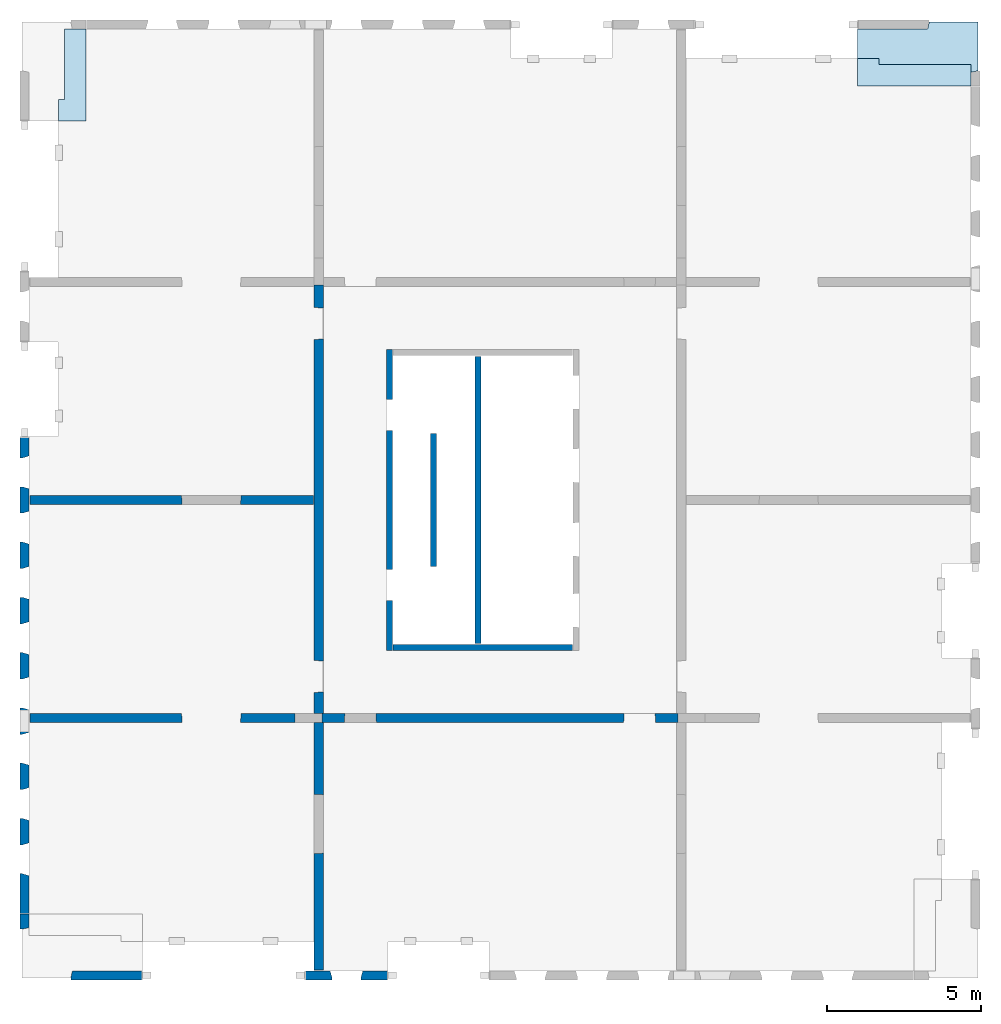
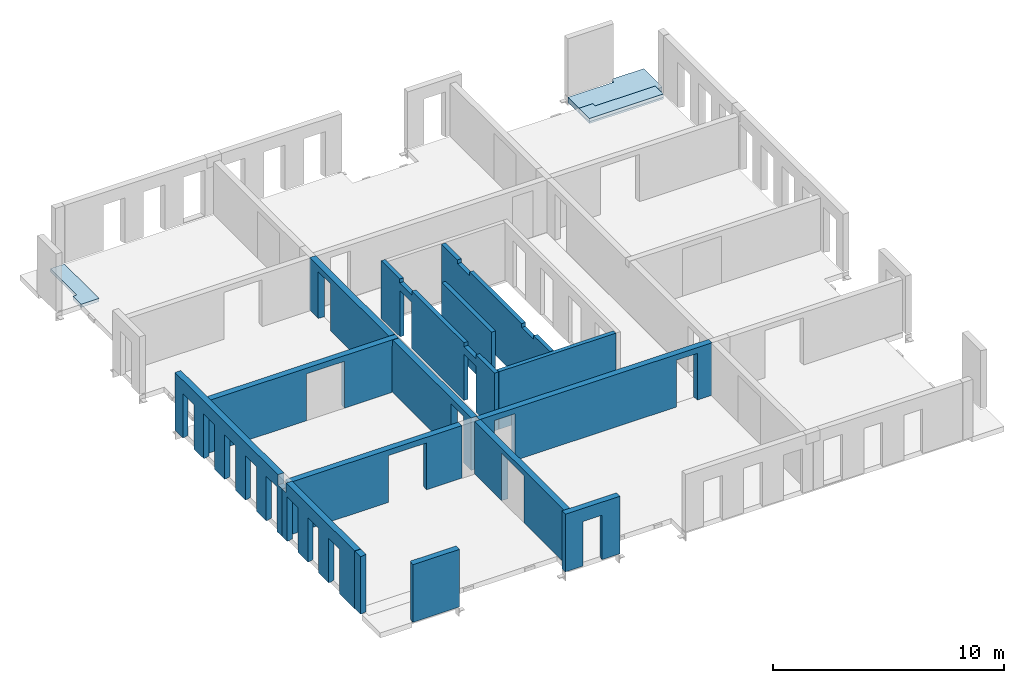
# One storey, part 2 of 5: 14 walls, 3 slabs, 34 openings.
"""IFC2X3 building model written with IfcOpenShell, lengths in millimetres."""

import ifcopenshell
import ifcopenshell.guid

model = None  # the IFC model being written
_history = None  # IfcOwnerHistory: only IFC2X3 demands one
_inside = {}  # id of a spatial element -> (the spatial element, [elements in it])
_under = {}  # id of a project, library or spatial element -> (it, [spatial elements below it])
_declared = {}  # id of a project -> (the project, [libraries it declares])
_typed = {}  # id of a type object -> (the type object, [elements of that type])
_made_of = {}  # id of a material, layer set ... -> (it, [elements and type objects made of it])


def new_model(schema):
    """Start an empty IFC model of exactly this schema.

    Asked for "IFC4X3", IfcOpenShell would pick the latest addendum, in which some entities
    have other attributes; the version numbers below select the first issue.
    IFC2X3 requires an IfcOwnerHistory on every rooted entity: one is made here for all.
    """
    global model, _history
    if schema == "IFC4X3":
        model = ifcopenshell.file(schema_version=(4, 3, 0, 0))
    else:
        model = ifcopenshell.file(schema=schema)
    _inside.clear()
    _under.clear()
    _declared.clear()
    _typed.clear()
    _made_of.clear()
    _history = None
    if model.schema == "IFC2X3":
        org = make("IfcOrganization", Name="unknown")
        user = make(
            "IfcPersonAndOrganization",
            ThePerson=make("IfcPerson", FamilyName="unknown"),
            TheOrganization=org,
        )
        app = make(
            "IfcApplication",
            ApplicationDeveloper=org,
            Version="unknown",
            ApplicationFullName="unknown",
            ApplicationIdentifier="unknown",
        )
        _history = make(
            "IfcOwnerHistory",
            OwningUser=user,
            OwningApplication=app,
            ChangeAction="ADDED",
            CreationDate=0,
        )
    return model


def make(cls, **values):
    """One entity of the class cls with the attributes given. An attribute that is None is left unset."""
    return model.create_entity(
        cls, **{name: value for name, value in values.items() if value is not None}
    )


def entity(cls, *values):
    """Any entity or typed value of the class cls, its attributes in the order of the schema. None: left unset."""
    e = model.create_entity(cls)
    for i, value in enumerate(values):
        if value is not None:
            e[i] = value
    return e


def rooted(cls, **values):
    """An entity with a GlobalId (a new one), such as an element, a storey or a relation."""
    return make(cls, GlobalId=ifcopenshell.guid.new(), OwnerHistory=_history, **values)


def si_unit(unit_type, name, prefix=None):
    """IfcSIUnit, for example si_unit("LENGTHUNIT", "METRE", prefix="MILLI")."""
    return make("IfcSIUnit", UnitType=unit_type, Prefix=prefix, Name=name)


def converted_unit(unit_type, name, factor, base, dimensions=None, offset=None):
    """IfcConversionBasedUnit, such as the inch: factor (a typed value) times the base unit."""
    return make(
        "IfcConversionBasedUnit"
        if offset is None
        else "IfcConversionBasedUnitWithOffset",
        ConversionOffset=offset,
        Dimensions=None
        if dimensions is None
        else entity("IfcDimensionalExponents", *dimensions),
        UnitType=unit_type,
        Name=name,
        ConversionFactor=make(
            "IfcMeasureWithUnit", ValueComponent=factor, UnitComponent=base
        ),
    )


def derived_unit(unit_type, elements):
    """IfcDerivedUnit: a product of units, each with its exponent."""
    return make(
        "IfcDerivedUnit",
        Elements=[
            make("IfcDerivedUnitElement", Unit=unit, Exponent=power)
            for unit, power in elements
        ],
        UnitType=unit_type,
    )


def assignment(units):
    """IfcUnitAssignment: the units of a project."""
    return None if units is None else make("IfcUnitAssignment", Units=units)


def point(xyz):
    """IfcCartesianPoint."""
    return None if xyz is None else make("IfcCartesianPoint", Coordinates=xyz)


def direction(xyz):
    """IfcDirection."""
    return None if xyz is None else make("IfcDirection", DirectionRatios=xyz)


def frame(location, z_axis=None, x_axis=None):
    """IfcAxis2Placement3D, a coordinate frame: its origin and axes. An axis left out is left unset."""
    return make(
        "IfcAxis2Placement3D",
        Location=point(location),
        Axis=direction(z_axis),
        RefDirection=direction(x_axis),
    )


def frame_2d(location, x_axis=None):
    """IfcAxis2Placement2D, a coordinate frame in the plane: its origin and x axis."""
    return make(
        "IfcAxis2Placement2D", Location=point(location), RefDirection=direction(x_axis)
    )


def origin():
    """The frame at (0, 0, 0) with its axes left unset."""
    return frame((0.0, 0.0, 0.0))


def place(relative_to, where):
    """IfcLocalPlacement: puts the frame where relative to a parent placement (None: the world)."""
    return make(
        "IfcLocalPlacement", PlacementRelTo=relative_to, RelativePlacement=where
    )


def context(
    kind, dimensions, precision=None, world=None, true_north=None, identifier=None
):
    """IfcGeometricRepresentationContext, for example the 3D "Model" context."""
    return make(
        "IfcGeometricRepresentationContext",
        ContextIdentifier=identifier,
        ContextType=kind,
        CoordinateSpaceDimension=dimensions,
        Precision=precision,
        WorldCoordinateSystem=world,
        TrueNorth=true_north,
    )


def subcontext(parent, identifier, kind, view, scale=None):
    """IfcGeometricRepresentationSubContext, for example "Body" below "Model"."""
    return make(
        "IfcGeometricRepresentationSubContext",
        ContextIdentifier=identifier,
        ContextType=kind,
        ParentContext=parent,
        TargetScale=scale,
        TargetView=view,
    )


def project(units=None, contexts=None):
    """IfcProject with its units and contexts."""
    return rooted(
        "IfcProject",
        Name="project",
        RepresentationContexts=contexts,
        UnitsInContext=assignment(units),
    )


def spatial(cls, under=None, at=None, **own):
    """A site, building, storey or space (cls), placed at a placement, below another one or the project."""
    s = rooted(cls, ObjectPlacement=at, **own)
    if under is not None:
        _under.setdefault(under.id(), (under, []))[1].append(s)
    return s


def polyline(points):
    """IfcPolyline through the points."""
    return make("IfcPolyline", Points=[point(p) for p in points])


def profile(cls, at=None, kind="AREA", **sizes):
    """A parametric profile (cls). Its sizes go by their IFC names, for example OverallWidth=200.0."""
    return make(cls, ProfileType=kind, Position=at, **sizes)


def rectangle(**sizes):
    """IfcRectangleProfileDef."""
    return profile("IfcRectangleProfileDef", **sizes)


def outline(outer, holes=None, kind="AREA"):
    """IfcArbitraryClosedProfileDef: a profile drawn as a closed curve; with holes, ...WithVoids."""
    if holes is None:
        return make("IfcArbitraryClosedProfileDef", ProfileType=kind, OuterCurve=outer)
    return make(
        "IfcArbitraryProfileDefWithVoids",
        ProfileType=kind,
        OuterCurve=outer,
        InnerCurves=holes,
    )


def extrude(swept, where, along, depth):
    """IfcExtrudedAreaSolid: the profile swept, set in the frame where, extruded along a direction by depth."""
    return make(
        "IfcExtrudedAreaSolid",
        SweptArea=swept,
        Position=where,
        ExtrudedDirection=direction(along),
        Depth=depth,
    )


def faces_of(points, faces, orient=None, outer=None):
    """IfcFace entities. A face is a list of loops; a loop is a list of indices into points, from 0.

    orient and outer hold one flag for each loop. By default every Orientation is true, the
    first loop of a face is its IfcFaceOuterBound and the others are IfcFaceBound.
    """
    made = []
    for i, loops in enumerate(faces):
        bounds = []
        for j, loop in enumerate(loops):
            is_outer = j == 0 if outer is None else outer[i][j]
            bounds.append(
                make(
                    "IfcFaceOuterBound" if is_outer else "IfcFaceBound",
                    Bound=make("IfcPolyLoop", Polygon=[points[k] for k in loop]),
                    Orientation=True if orient is None else orient[i][j],
                )
            )
        made.append(make("IfcFace", Bounds=bounds))
    return made


def faceted_brep(points, faces, orient=None, outer=None, voids=None):
    """IfcFacetedBrep: a solid bounded by flat faces; with voids (closed shells), ...WithVoids."""
    shared = [point(p) for p in points]
    hull = make("IfcClosedShell", CfsFaces=faces_of(shared, faces, orient, outer))
    if voids is None:
        return make("IfcFacetedBrep", Outer=hull)
    return make(
        "IfcFacetedBrepWithVoids",
        Outer=hull,
        Voids=[
            make(cls, CfsFaces=faces_of(shared, fs, o, b)) for cls, fs, o, b in voids
        ],
    )


def shape(context_of_items, identifier, shape_type, items):
    """IfcShapeRepresentation: the items that make up one representation, for example the "Body"."""
    return make(
        "IfcShapeRepresentation",
        ContextOfItems=context_of_items,
        RepresentationIdentifier=identifier,
        RepresentationType=shape_type,
        Items=items,
    )


def material(Name=None, Category=None):
    """IfcMaterial."""
    return make("IfcMaterial", Name=Name, Category=Category)


def layer(
    of_material, thickness, ventilated=None, Name=None, Category=None, Priority=None
):
    """IfcMaterialLayer: one layer of a wall or slab, of a material (None: an air gap)."""
    return make(
        "IfcMaterialLayer",
        Material=of_material,
        LayerThickness=thickness,
        IsVentilated=ventilated,
        Name=Name,
        Category=Category,
        Priority=Priority,
    )


def layer_set(layers, Name=None):
    """IfcMaterialLayerSet."""
    return make("IfcMaterialLayerSet", MaterialLayers=layers, LayerSetName=Name)


def layer_usage(for_layer_set, set_direction, sense, offset, extent=None):
    """IfcMaterialLayerSetUsage: how a layer set lies in its element."""
    return make(
        "IfcMaterialLayerSetUsage",
        ForLayerSet=for_layer_set,
        LayerSetDirection=set_direction,
        DirectionSense=sense,
        OffsetFromReferenceLine=offset,
        ReferenceExtent=extent,
    )


def made_of(thing, what):
    """Note that an element or type object is made of a material, layer set ...; save() writes the relation."""
    if what is not None:
        _made_of.setdefault(what.id(), (what, []))[1].append(thing)
    return thing


def type_object(cls, material=None, **own):
    """A type object (cls), such as IfcWallType, which elements share."""
    return made_of(rooted(cls, **own), material)


def element(
    cls,
    number,
    at=None,
    inside=None,
    cuts=None,
    type_object=None,
    material=None,
    context=None,
    identifier="Body",
    shape_type=None,
    held_by="IfcProductDefinitionShape",
    body=None,
    shapes=None,
    **own,
):
    """One element of the class cls, such as IfcWall. Its Tag is "e" and its number.

    at: its placement. inside: the storey or other place that contains it. cuts: it is an
    opening in that element (IfcRelVoidsElement). A single representation is given by context,
    identifier, shape_type and body (its items); several are given by shapes. held_by: the class
    of the entity that holds the representations. save() writes the other relations.
    """
    e = rooted(cls, Tag="e%d" % number, ObjectPlacement=at, **own)
    if body is not None:
        shapes = [shape(context, identifier, shape_type, body)]
    if shapes is not None:
        e.Representation = make(held_by, Representations=shapes)
    if inside is not None:
        _inside.setdefault(inside.id(), (inside, []))[1].append(e)
    if cuts is not None:
        rooted(
            "IfcRelVoidsElement", RelatingBuildingElement=cuts, RelatedOpeningElement=e
        )
    if type_object is not None:
        _typed.setdefault(type_object.id(), (type_object, []))[1].append(e)
    return made_of(e, material)


def aggregate(whole, parts):
    """IfcRelAggregates: a whole, such as a stair, and the parts it consists of."""
    return rooted("IfcRelAggregates", RelatingObject=whole, RelatedObjects=parts)


def save(model, path):
    """Write the relations noted so far, then the file.

    IfcRelAggregates (storeys below a building ...), IfcRelContainedInSpatialStructure (elements
    in a storey), IfcRelDefinesByType, IfcRelAssociatesMaterial and IfcRelDeclares: one each for
    every whole, place, type object, material and project.
    """
    for whole, parts in _under.values():
        aggregate(whole, parts)
    for where, things in _inside.values():
        rooted(
            "IfcRelContainedInSpatialStructure",
            RelatedElements=things,
            RelatingStructure=where,
        )
    for kind, things in _typed.values():
        rooted("IfcRelDefinesByType", RelatedObjects=things, RelatingType=kind)
    for what, things in _made_of.values():
        rooted("IfcRelAssociatesMaterial", RelatedObjects=things, RelatingMaterial=what)
    for by, libraries in _declared.values():
        rooted("IfcRelDeclares", RelatingContext=by, RelatedDefinitions=libraries)
    model.write(path)


model = new_model("IFC2X3")

# Units and contexts
model_context = context("Model", 3, precision=0.01, world=origin(), true_north=direction((6.12303176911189e-17, 1.0)))
body_context = subcontext(model_context, "Body", "Model", "MODEL_VIEW")
ifc_project = project(units=[si_unit("LENGTHUNIT", "METRE", prefix="MILLI"), si_unit("AREAUNIT", "SQUARE_METRE"), si_unit("VOLUMEUNIT", "CUBIC_METRE"), converted_unit("PLANEANGLEUNIT", "DEGREE", entity("IfcRatioMeasure", 0.0174532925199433), si_unit("PLANEANGLEUNIT", "RADIAN"), dimensions=[0, 0, 0, 0, 0, 0, 0]), si_unit("MASSUNIT", "GRAM", prefix="KILO"), derived_unit("MASSDENSITYUNIT", [(si_unit("MASSUNIT", "GRAM", prefix="KILO"), 1), (si_unit("LENGTHUNIT", "METRE"), -3)]), si_unit("TIMEUNIT", "SECOND"), si_unit("FREQUENCYUNIT", "HERTZ"), si_unit("THERMODYNAMICTEMPERATUREUNIT", "DEGREE_CELSIUS"), derived_unit("THERMALTRANSMITTANCEUNIT", [(si_unit("MASSUNIT", "GRAM", prefix="KILO"), 1), (si_unit("THERMODYNAMICTEMPERATUREUNIT", "KELVIN"), -1), (si_unit("TIMEUNIT", "SECOND"), -3)]), derived_unit("VOLUMETRICFLOWRATEUNIT", [(si_unit("LENGTHUNIT", "METRE"), 3), (si_unit("TIMEUNIT", "SECOND"), -1)]), si_unit("ELECTRICCURRENTUNIT", "AMPERE"), si_unit("ELECTRICVOLTAGEUNIT", "VOLT"), si_unit("POWERUNIT", "WATT"), si_unit("FORCEUNIT", "NEWTON", prefix="KILO"), si_unit("ILLUMINANCEUNIT", "LUX"), si_unit("LUMINOUSFLUXUNIT", "LUMEN"), si_unit("LUMINOUSINTENSITYUNIT", "CANDELA"), derived_unit("USERDEFINED", [(si_unit("MASSUNIT", "GRAM", prefix="KILO"), -1), (si_unit("LENGTHUNIT", "METRE"), -2), (si_unit("TIMEUNIT", "SECOND"), 3), (si_unit("LUMINOUSFLUXUNIT", "LUMEN"), 1)]), derived_unit("LINEARVELOCITYUNIT", [(si_unit("LENGTHUNIT", "METRE"), 1), (si_unit("TIMEUNIT", "SECOND"), -1)]), si_unit("PRESSUREUNIT", "PASCAL"), derived_unit("USERDEFINED", [(si_unit("LENGTHUNIT", "METRE"), -2), (si_unit("MASSUNIT", "GRAM", prefix="KILO"), 1), (si_unit("TIMEUNIT", "SECOND"), -2)])], contexts=[model_context])

# Site, building, storey
site_placement = place(None, origin())
site = spatial("IfcSite", under=ifc_project, at=site_placement, Name="Default", CompositionType="ELEMENT")
building_placement = place(site_placement, origin())
building = spatial("IfcBuilding", under=site, at=building_placement, Name="niet gebruiken", CompositionType="ELEMENT")
storey_placement = place(building_placement, frame((0.0, 0.0, 143460.0)))
storey = spatial("IfcBuildingStorey", under=building, at=storey_placement, Name="46 zesenveertigste verdieping", CompositionType="ELEMENT", Elevation=143460.0)

# Slabs
ifc_material_1 = material(Name="NLRS_f2_beton ihwg")
ifc_layer_1 = layer(ifc_material_1, 170.0)
ifc_layer_set_1 = layer_set([ifc_layer_1], Name="Floor:NLRS_23.21_FL_beton ihwg d=170_gen")
ifc_layer_usage_1 = layer_usage(ifc_layer_set_1, "AXIS3", "POSITIVE", 0.0)
slab_1_placement = place(storey_placement, origin())
element("IfcSlab", 1, at=slab_1_placement, inside=storey, material=ifc_layer_usage_1, Name="Floor:NLRS_23.21_FL_beton ihwg d=170_gen", ObjectType="Floor:NLRS_23.21_FL_beton ihwg d=170_gen", PredefinedType="FLOOR", context=body_context, shape_type="SweptSolid", body=[
    extrude(outline(polyline([(-1230.0, -366.666666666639), (-530.0, -366.666666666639), (-530.0, -166.66666666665), (1760.0, -166.666666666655), (1760.0, 533.333333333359), (-1230.0, 533.333333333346), (-1230.0, -366.666666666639)])), frame((127736.666666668, 31070.0, -90.0), z_axis=(0.0, 0.0, -1.0), x_axis=(0.0, 1.0, 0.0)), (0.0, 0.0, 1.0), 169.999999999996),
])
ifc_material_2 = material(Name="NLRS_f2_beton prefab")
ifc_layer_2 = layer(ifc_material_2, 270.0)
ifc_layer_set_2 = layer_set([ifc_layer_2], Name="Floor:NLRS_23.22_FL_beton prefab d=270 3D element_gen")
ifc_layer_usage_2 = layer_usage(ifc_layer_set_2, "AXIS3", "POSITIVE", 0.0)
slab_2_placement = place(storey_placement, origin())
element("IfcSlab", 2, at=slab_2_placement, inside=storey, material=ifc_layer_usage_2, Name="Floor:NLRS_23.22_FL_beton prefab d=270 3D element_gen", ObjectType="Floor:NLRS_23.22_FL_beton prefab d=270 3D element_gen", PredefinedType="LANDING", context=body_context, shape_type="SweptSolid", body=[
    extrude(outline(polyline([(-1100.52860501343, -2480.52860501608), (749.471394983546, -2480.52860501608), (749.471394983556, -195.152429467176), (982.471394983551, -147.675940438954), (982.471394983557, 1442.47139498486), (-607.675940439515, 1442.47139498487), (-655.152429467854, 1209.47139498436), (-1100.52860501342, 1209.47139498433), (-1100.52860501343, -2480.52860501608)])), frame((155870.528605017, 32080.5286050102, -90.0), z_axis=(0.0, 0.0, -1.0), x_axis=(0.0, 1.0, 0.0)), (0.0, 0.0, 1.0), 270.000000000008),
])
ifc_layer_usage_3 = layer_usage(ifc_layer_set_1, "AXIS3", "POSITIVE", 0.0)
slab_3_placement = place(storey_placement, origin())
element("IfcSlab", 3, at=slab_3_placement, inside=storey, material=ifc_layer_usage_3, Name="Floor:NLRS_23.21_FL_beton ihwg d=170_gen", ObjectType="Floor:NLRS_23.21_FL_beton ihwg d=170_gen", PredefinedType="FLOOR", context=body_context, shape_type="SweptSolid", body=[
    extrude(outline(polyline([(-533.333333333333, -1463.33333333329), (366.666666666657, -1463.33333333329), (366.666666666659, -763.333333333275), (166.66666666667, -763.333333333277), (166.666666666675, 2226.66666666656), (-533.333333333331, 2226.66666666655), (-533.333333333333, -1463.33333333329)])), frame((154853.333333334, 31513.3333333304, -90.0), z_axis=(0.0, 0.0, -1.0), x_axis=(0.0, 1.0, 0.0)), (0.0, 0.0, 1.0), 169.999999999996),
])

# Wall, openings
ifc_layer_3 = layer(ifc_material_2, 200.0)
ifc_layer_set_3 = layer_set([ifc_layer_3], Name="Basic Wall:NLRS_22.21_WA_beton prefab d=200_gen")
ifc_layer_usage_4 = layer_usage(ifc_layer_set_3, "AXIS2", "NEGATIVE", 100.0)
wall_type_1 = type_object("IfcWallType", Name="Basic Wall:NLRS_22.21_WA_beton prefab d=200_gen", PredefinedType="STANDARD", material=ifc_layer_set_3)
wall_1_placement = place(storey_placement, frame((138150.0, 22400.0, -50.0), z_axis=(0.0, 0.0, 1.0), x_axis=(0.0, -1.0, 0.0)))
wall_1 = element("IfcWallStandardCase", 4, at=wall_1_placement, inside=storey, type_object=wall_type_1, material=ifc_layer_usage_4, Name="Basic Wall:NLRS_22.21_WA_beton prefab d=200_gen", ObjectType="Basic Wall:NLRS_22.21_WA_beton prefab d=200_gen", context=body_context, shape_type="SweptSolid", body=[
    extrude(rectangle(XDim=9800.0, YDim=199.999999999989, at=frame_2d((4900.0, 3.76587649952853e-13), x_axis=(-1.0, 0.0))), origin(), (0.0, 0.0, 1.0), 3040.0),
])
opening_1_placement = place(wall_1_placement, origin())
element("IfcOpeningElement", 5, at=opening_1_placement, cuts=wall_1, Name="Basic Wall:NLRS_22.21_WA_beton prefab d=200_gen", ObjectType="Opening", context=body_context, shape_type="SweptSolid", body=[
    extrude(rectangle(XDim=200.000000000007, YDim=1044.0, at=frame_2d((8.66862137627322e-12, 0.0), x_axis=(1.0, 0.0))), frame((7672.0, -100.0, 2940.0), z_axis=(0.0, 1.0, 0.0), x_axis=(0.0, 0.0, -1.0)), (0.0, 0.0, 1.0), 199.999999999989),
])
opening_2_placement = place(wall_1_placement, origin())
element("IfcOpeningElement", 6, at=opening_2_placement, cuts=wall_1, Name="Basic Wall:NLRS_22.21_WA_beton prefab d=200_gen", ObjectType="Opening", context=body_context, shape_type="SweptSolid", body=[
    extrude(rectangle(XDim=200.000000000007, YDim=1044.0, at=frame_2d((8.66862137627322e-12, 2.1600499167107e-12), x_axis=(1.0, 0.0))), frame((2128.0, -100.0, 2940.0), z_axis=(0.0, 1.0, 0.0), x_axis=(0.0, 0.0, -1.0)), (0.0, 0.0, 1.0), 199.999999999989),
])
opening_3_placement = place(wall_1_placement, origin())
element("IfcOpeningElement", 7, at=opening_3_placement, cuts=wall_1, Name="Basic Wall:NLRS_22.21_WA_beton prefab d=200_gen", ObjectType="Opening", context=body_context, shape_type="SweptSolid", body=[
    extrude(rectangle(XDim=2435.0, YDim=1015.99999999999, at=frame_2d((0.0, 1.10844666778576e-12), x_axis=(1.0, 0.0))), frame((7672.0, -100.0, 1217.50000000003), z_axis=(0.0, 1.0, 0.0), x_axis=(0.0, 0.0, -1.0)), (0.0, 0.0, 1.0), 199.999999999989),
])
opening_4_placement = place(wall_1_placement, origin())
element("IfcOpeningElement", 8, at=opening_4_placement, cuts=wall_1, Name="Basic Wall:NLRS_22.21_WA_beton prefab d=200_gen", ObjectType="Opening", context=body_context, shape_type="SweptSolid", body=[
    extrude(rectangle(XDim=2435.0, YDim=1015.99999999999, at=frame_2d((0.0, -2.18847162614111e-12), x_axis=(1.0, 0.0))), frame((2128.0, -100.0, 1217.50000000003), z_axis=(0.0, 1.0, 0.0), x_axis=(0.0, 0.0, -1.0)), (0.0, 0.0, 1.0), 199.999999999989),
])

ifc_layer_usage_5 = layer_usage(ifc_layer_set_3, "AXIS2", "NEGATIVE", 100.0)
wall_2_placement = place(storey_placement, frame((141030.0, 22180.0, -50.0), z_axis=(0.0, 0.0, 1.0), x_axis=(0.0, -1.0, 0.0)))
wall_2 = element("IfcWallStandardCase", 9, at=wall_2_placement, inside=storey, type_object=wall_type_1, material=ifc_layer_usage_5, Name="Basic Wall:NLRS_22.21_WA_beton prefab d=200_gen", ObjectType="Basic Wall:NLRS_22.21_WA_beton prefab d=200_gen", context=body_context, shape_type="SweptSolid", body=[
    extrude(rectangle(XDim=9360.0, YDim=199.999999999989, at=frame_2d((4680.0, -2.8421709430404e-14), x_axis=(-1.0, 0.0))), origin(), (0.0, 0.0, 1.0), 3040.0),
])
opening_5_placement = place(wall_2_placement, origin())
element("IfcOpeningElement", 10, at=opening_5_placement, cuts=wall_2, Name="Basic Wall:NLRS_22.21_WA_beton prefab d=200_gen", ObjectType="Opening", context=body_context, shape_type="SweptSolid", body=[
    extrude(rectangle(XDim=70.0000000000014, YDim=1044.00000000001, at=frame_2d((-8.66506866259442e-12, 0.0), x_axis=(1.0, 0.0))), frame((7452.0, -100.0, 35.0), z_axis=(0.0, 1.0, 0.0), x_axis=(0.0, 0.0, -1.0)), (0.0, 0.0, 1.0), 199.999999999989),
])
opening_6_placement = place(wall_2_placement, origin())
element("IfcOpeningElement", 11, at=opening_6_placement, cuts=wall_2, Name="Basic Wall:NLRS_22.21_WA_beton prefab d=200_gen", ObjectType="Opening", context=body_context, shape_type="SweptSolid", body=[
    extrude(rectangle(XDim=70.0000000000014, YDim=1044.00000000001, at=frame_2d((-8.66506866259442e-12, 0.0), x_axis=(1.0, 0.0))), frame((1908.0, -100.0, 35.0), z_axis=(0.0, 1.0, 0.0), x_axis=(0.0, 0.0, -1.0)), (0.0, 0.0, 1.0), 199.999999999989),
])
opening_7_placement = place(wall_2_placement, origin())
element("IfcOpeningElement", 12, at=opening_7_placement, cuts=wall_2, Name="Basic Wall:NLRS_22.21_WA_beton prefab d=200_gen", ObjectType="Opening", context=body_context, shape_type="SweptSolid", body=[
    extrude(rectangle(XDim=200.000000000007, YDim=1044.00000000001, at=frame_2d((8.66862137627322e-12, 0.0), x_axis=(1.0, 0.0))), frame((1908.0, -100.0, 2940.0), z_axis=(0.0, 1.0, 0.0), x_axis=(0.0, 0.0, -1.0)), (0.0, 0.0, 1.0), 199.999999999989),
])
opening_8_placement = place(wall_2_placement, origin())
element("IfcOpeningElement", 13, at=opening_8_placement, cuts=wall_2, Name="Basic Wall:NLRS_22.21_WA_beton prefab d=200_gen", ObjectType="Opening", context=body_context, shape_type="SweptSolid", body=[
    extrude(rectangle(XDim=200.000000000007, YDim=1044.00000000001, at=frame_2d((8.66862137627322e-12, 0.0), x_axis=(1.0, 0.0))), frame((7452.0, -100.0, 2940.0), z_axis=(0.0, 1.0, 0.0), x_axis=(0.0, 0.0, -1.0)), (0.0, 0.0, 1.0), 199.999999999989),
])
opening_9_placement = place(wall_2_placement, origin())
element("IfcOpeningElement", 14, at=opening_9_placement, cuts=wall_2, Name="Basic Wall:NLRS_22.21_WA_beton prefab d=200_gen", ObjectType="Recess", context=body_context, shape_type="SweptSolid", body=[
    extrude(rectangle(XDim=399.999999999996, YDim=280.000000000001, at=frame_2d((-2.1600499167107e-12, -8.66862137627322e-12), x_axis=(0.0, 1.0))), frame((770.0, -60.0, 438.0), z_axis=(0.0, 1.0, 0.0), x_axis=(1.0, 0.0, 0.0)), (0.0, 0.0, 1.0), 159.999999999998),
])
opening_10_placement = place(wall_2_placement, origin())
element("IfcOpeningElement", 15, at=opening_10_placement, cuts=wall_2, Name="Basic Wall:NLRS_22.21_WA_beton prefab d=200_gen", ObjectType="Recess", context=body_context, shape_type="SweptSolid", body=[
    extrude(rectangle(XDim=399.999999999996, YDim=280.000000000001, at=frame_2d((-2.1600499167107e-12, -8.66862137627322e-12), x_axis=(0.0, 1.0))), frame((1570.0, -60.0, 438.0), z_axis=(0.0, 1.0, 0.0), x_axis=(1.0, 0.0, 0.0)), (0.0, 0.0, 1.0), 159.999999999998),
])
opening_11_placement = place(wall_2_placement, origin())
element("IfcOpeningElement", 16, at=opening_11_placement, cuts=wall_2, Name="Basic Wall:NLRS_22.21_WA_beton prefab d=200_gen", ObjectType="Recess", context=body_context, shape_type="SweptSolid", body=[
    extrude(rectangle(XDim=399.999999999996, YDim=279.999999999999, at=frame_2d((-1.08002495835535e-12, -8.66862137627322e-12), x_axis=(0.0, 1.0))), frame((3160.0, -60.0, 438.0), z_axis=(0.0, 1.0, 0.0), x_axis=(1.0, 0.0, 0.0)), (0.0, 0.0, 1.0), 159.999999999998),
])
opening_12_placement = place(wall_2_placement, origin())
element("IfcOpeningElement", 17, at=opening_12_placement, cuts=wall_2, Name="Basic Wall:NLRS_22.21_WA_beton prefab d=200_gen", ObjectType="Recess", context=body_context, shape_type="SweptSolid", body=[
    extrude(rectangle(XDim=399.999999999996, YDim=279.999999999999, at=frame_2d((1.08002495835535e-12, -8.66862137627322e-12), x_axis=(0.0, 1.0))), frame((3960.0, -60.0, 438.0), z_axis=(0.0, 1.0, 0.0), x_axis=(1.0, 0.0, 0.0)), (0.0, 0.0, 1.0), 159.999999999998),
])

# Walls
ifc_layer_usage_6 = layer_usage(ifc_layer_set_3, "AXIS2", "NEGATIVE", 100.0)
wall_3_placement = place(storey_placement, frame((139590.0, 19660.0, -50.0), z_axis=(0.0, 0.0, 1.0), x_axis=(0.0, -1.0, 0.0)))
element("IfcWallStandardCase", 18, at=wall_3_placement, inside=storey, type_object=wall_type_1, material=ifc_layer_usage_6, Name="Basic Wall:NLRS_22.21_WA_beton prefab d=200_gen", ObjectType="Basic Wall:NLRS_22.21_WA_beton prefab d=200_gen", context=body_context, shape_type="SweptSolid", body=[
    extrude(rectangle(XDim=4320.00000000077, YDim=199.999999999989, at=frame_2d((2160.00000000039, 0.0), x_axis=(-1.0, 0.0))), origin(), (0.0, 0.0, 1.0), 3040.0),
])
ifc_layer_usage_7 = layer_usage(ifc_layer_set_3, "AXIS2", "NEGATIVE", 100.0)
wall_4_placement = place(storey_placement, frame((138270.0, 12700.0, -50.0)))
element("IfcWallStandardCase", 19, at=wall_4_placement, inside=storey, type_object=wall_type_1, material=ifc_layer_usage_7, Name="Basic Wall:NLRS_22.21_WA_beton prefab d=200_gen", ObjectType="Basic Wall:NLRS_22.21_WA_beton prefab d=200_gen", context=body_context, shape_type="SweptSolid", body=[
    extrude(rectangle(XDim=5839.99999999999, YDim=199.999999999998, at=frame_2d((2919.99999999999, -6.82121026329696e-13), x_axis=(-1.0, 0.0))), origin(), (0.0, 0.0, 1.0), 3040.0),
])

# Wall, opening
ifc_layer_4 = layer(ifc_material_2, 300.0)
ifc_layer_set_4 = layer_set([ifc_layer_4], Name="Basic Wall:NLRS_22.21_WA_beton prefab d=300_gen")
ifc_layer_usage_8 = layer_usage(ifc_layer_set_4, "AXIS2", "NEGATIVE", 150.0)
wall_type_2 = type_object("IfcWallType", Name="Basic Wall:NLRS_22.21_WA_beton prefab d=300_gen", PredefinedType="STANDARD", material=ifc_layer_set_4)
wall_5_placement = place(storey_placement, frame((135850.0, 10250.0, -70.0), z_axis=(0.0, 0.0, 1.0), x_axis=(0.0, -1.0, 0.0)))
wall_5 = element("IfcWallStandardCase", 20, at=wall_5_placement, inside=storey, type_object=wall_type_2, material=ifc_layer_usage_8, Name="Basic Wall:NLRS_22.21_WA_beton prefab d=300_gen", ObjectType="Basic Wall:NLRS_22.21_WA_beton prefab d=300_gen", context=body_context, shape_type="SweptSolid", body=[
    extrude(rectangle(XDim=8059.99999999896, YDim=300.000000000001, at=frame_2d((4029.99999999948, 1.22213350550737e-12), x_axis=(-1.0, 0.0))), origin(), (0.0, 0.0, 1.0), 2769.99999999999),
])
opening_13_placement = place(wall_5_placement, frame((4268.0, -150.0, 0.0)))
element("IfcOpeningElement", 21, at=opening_13_placement, cuts=wall_5, Name="Basic Wall:NLRS_22.21_WA_beton prefab d=300_gen", ObjectType="Opening", context=body_context, shape_type="Brep", body=[
    faceted_brep([(-18.0, 300.0, 2470.0), (-18.0, 300.0, 0.0), (-1918.0, 300.0, 0.0), (-1918.0, 300.0, 2470.0), (0.0, 0.0, 2488.0), (-1936.0, 0.0, 2488.0), (-1936.0, 0.0, 0.0), (0.0, 0.0, 0.0)], [[[0, 1, 2, 3]], [[4, 5, 6, 7]], [[4, 0, 3, 5]], [[5, 3, 2, 6]], [[6, 2, 1, 7]], [[7, 1, 0, 4]]]),
])

# Wall, openings
ifc_layer_usage_9 = layer_usage(ifc_layer_set_4, "AXIS2", "NEGATIVE", 150.0)
wall_6_placement = place(storey_placement, frame((135950.003540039, 10400.0, -70.0)))
wall_6 = element("IfcWallStandardCase", 22, at=wall_6_placement, inside=storey, type_object=wall_type_2, material=ifc_layer_usage_9, Name="Basic Wall:NLRS_22.21_WA_beton prefab d=300_gen", ObjectType="Basic Wall:NLRS_22.21_WA_beton prefab d=300_gen", context=body_context, shape_type="SweptSolid", body=[
    extrude(rectangle(XDim=11599.9964599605, YDim=300.000000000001, at=frame_2d((5799.99822998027, 1.70530256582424e-13), x_axis=(-1.0, 0.0))), origin(), (0.0, 0.0, 1.0), 2769.99999999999),
])
opening_14_placement = place(wall_6_placement, frame((731.996459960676, -150.0, 0.0)))
element("IfcOpeningElement", 23, at=opening_14_placement, cuts=wall_6, Name="Basic Wall:NLRS_22.21_WA_beton prefab d=300_gen", ObjectType="Opening", context=body_context, shape_type="Brep", body=[
    faceted_brep([(0.0, 0.0, 2466.0), (18.0, 300.0, 2448.0), (18.0, 300.0, 0.0), (0.0, 0.0, 0.0), (1024.0, 300.0, 0.0), (1042.0, 0.0, 0.0), (1024.0, 300.0, 2448.0), (1042.0, 0.0, 2466.0)], [[[0, 1, 2, 3]], [[3, 2, 4, 5]], [[6, 4, 2, 1]], [[7, 0, 3, 5]], [[7, 6, 1, 0]], [[5, 4, 6, 7]]]),
])
opening_15_placement = place(wall_6_placement, frame((9825.99645996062, -150.0, 0.0)))
element("IfcOpeningElement", 24, at=opening_15_placement, cuts=wall_6, Name="Basic Wall:NLRS_22.21_WA_beton prefab d=300_gen", ObjectType="Opening", context=body_context, shape_type="Brep", body=[
    faceted_brep([(0.0, 0.0, 2466.0), (18.0, 300.0, 2448.0), (18.0, 300.0, 0.0), (0.0, 0.0, 0.0), (1024.0, 300.0, 0.0), (1042.0, 0.0, 0.0), (1024.0, 300.0, 2448.0), (1042.0, 0.0, 2466.0)], [[[0, 1, 2, 3]], [[3, 2, 4, 5]], [[6, 4, 2, 1]], [[7, 0, 3, 5]], [[7, 6, 1, 0]], [[5, 4, 6, 7]]]),
])

ifc_layer_usage_10 = layer_usage(ifc_layer_set_4, "AXIS2", "NEGATIVE", 150.0)
wall_7_placement = place(storey_placement, frame((126440.0, 17500.0, -70.0)))
wall_7 = element("IfcWallStandardCase", 25, at=wall_7_placement, inside=storey, type_object=wall_type_2, material=ifc_layer_usage_10, Name="Basic Wall:NLRS_22.21_WA_beton prefab d=300_gen", ObjectType="Basic Wall:NLRS_22.21_WA_beton prefab d=300_gen", context=body_context, shape_type="SweptSolid", body=[
    extrude(rectangle(XDim=9559.9999999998, YDim=300.000000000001, at=frame_2d((4779.9999999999, -5.54223333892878e-13), x_axis=(-1.0, 0.0))), origin(), (0.0, 0.0, 1.0), 2769.99999999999),
])
opening_16_placement = place(wall_7_placement, frame((4942.0, -150.0, 0.0)))
element("IfcOpeningElement", 26, at=opening_16_placement, cuts=wall_7, Name="Basic Wall:NLRS_22.21_WA_beton prefab d=300_gen", ObjectType="Opening", context=body_context, shape_type="Brep", body=[
    faceted_brep([(1918.0, 0.0, 2470.0), (18.0, 0.0, 2470.0), (18.0, 0.0, 0.0), (1918.0, 0.0, 0.0), (1936.0, 300.0, 2488.0), (1936.0, 300.0, 0.0), (0.0, 300.0, 0.0), (0.0, 300.0, 2488.0)], [[[0, 1, 2, 3]], [[4, 5, 6, 7]], [[4, 7, 1, 0]], [[7, 6, 2, 1]], [[6, 5, 3, 2]], [[5, 4, 0, 3]]]),
])
opening_17_placement = place(wall_7_placement, origin())
element("IfcOpeningElement", 27, at=opening_17_placement, cuts=wall_7, Name="Basic Wall:NLRS_22.21_WA_beton prefab d=300_gen", ObjectType="Opening", context=body_context, shape_type="SweptSolid", body=[
    extrude(rectangle(XDim=2439.99999999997, YDim=319.999999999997, at=frame_2d((0.0, 0.0), x_axis=(0.0, 1.0))), frame((9400.0, 150.0, 1220.0), z_axis=(0.0, -1.0, 0.0), x_axis=(1.0, 0.0, 0.0)), (0.0, 0.0, 1.0), 300.0),
])

# Wall, opening
ifc_layer_usage_11 = layer_usage(ifc_layer_set_4, "AXIS2", "NEGATIVE", 150.0)
wall_8_placement = place(storey_placement, frame((126440.0, 10400.0, -70.0)))
wall_8 = element("IfcWallStandardCase", 28, at=wall_8_placement, inside=storey, type_object=wall_type_2, material=ifc_layer_usage_11, Name="Basic Wall:NLRS_22.21_WA_beton prefab d=300_gen", ObjectType="Basic Wall:NLRS_22.21_WA_beton prefab d=300_gen", context=body_context, shape_type="SweptSolid", body=[
    extrude(rectangle(XDim=8630.00354003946, YDim=300.000000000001, at=frame_2d((4315.00177001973, -2.70006239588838e-13), x_axis=(-1.0, 0.0))), origin(), (0.0, 0.0, 1.0), 2769.99999999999),
])
opening_18_placement = place(wall_8_placement, frame((4942.0, -150.0, 0.0)))
element("IfcOpeningElement", 29, at=opening_18_placement, cuts=wall_8, Name="Basic Wall:NLRS_22.21_WA_beton prefab d=300_gen", ObjectType="Opening", context=body_context, shape_type="Brep", body=[
    faceted_brep([(1918.0, 0.0, 2470.0), (18.0, 0.0, 2470.0), (18.0, 0.0, 0.0), (1918.0, 0.0, 0.0), (1936.0, 300.0, 2488.0), (1936.0, 300.0, 0.0), (0.0, 300.0, 0.0), (0.0, 300.0, 2488.0)], [[[0, 1, 2, 3]], [[4, 5, 6, 7]], [[4, 7, 1, 0]], [[7, 6, 2, 1]], [[6, 5, 3, 2]], [[5, 4, 0, 3]]]),
])

# Wall, openings
ifc_layer_usage_12 = layer_usage(ifc_layer_set_4, "AXIS2", "NEGATIVE", 150.0)
wall_9_placement = place(storey_placement, frame((135850.0, 24500.0, -70.0), z_axis=(0.0, 0.0, 1.0), x_axis=(0.0, -1.0, 0.0)))
wall_9 = element("IfcWallStandardCase", 30, at=wall_9_placement, inside=storey, type_object=wall_type_2, material=ifc_layer_usage_12, Name="Basic Wall:NLRS_22.21_WA_beton prefab d=300_gen", ObjectType="Basic Wall:NLRS_22.21_WA_beton prefab d=300_gen", context=body_context, shape_type="SweptSolid", body=[
    extrude(rectangle(XDim=13949.999999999, YDim=300.000000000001, at=frame_2d((6974.99999999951, 4.2632564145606e-14), x_axis=(-1.0, 0.0))), origin(), (0.0, 0.0, 1.0), 2769.99999999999),
])
opening_19_placement = place(wall_9_placement, frame((13268.0, -150.0, 0.0)))
element("IfcOpeningElement", 31, at=opening_19_placement, cuts=wall_9, Name="Basic Wall:NLRS_22.21_WA_beton prefab d=300_gen", ObjectType="Opening", context=body_context, shape_type="Brep", body=[
    faceted_brep([(-1042.0, 0.0, 2466.0), (-1024.0, 300.0, 2448.0), (-1024.0, 300.0, 0.0), (-1042.0, 0.0, 0.0), (-18.0, 300.0, 0.0), (0.0, 0.0, 0.0), (-18.0, 300.0, 2448.0), (0.0, 0.0, 2466.0)], [[[0, 1, 2, 3]], [[3, 2, 4, 5]], [[6, 4, 2, 1]], [[7, 0, 3, 5]], [[7, 6, 1, 0]], [[5, 4, 6, 7]]]),
])
opening_20_placement = place(wall_9_placement, frame((1774.0, -150.0, 0.0)))
element("IfcOpeningElement", 32, at=opening_20_placement, cuts=wall_9, Name="Basic Wall:NLRS_22.21_WA_beton prefab d=300_gen", ObjectType="Opening", context=body_context, shape_type="Brep", body=[
    faceted_brep([(-1042.0, 0.0, 2466.0), (-1024.0, 300.0, 2448.0), (-1024.0, 300.0, 0.0), (-1042.0, 0.0, 0.0), (-18.0, 300.0, 0.0), (0.0, 0.0, 0.0), (-18.0, 300.0, 2448.0), (0.0, 0.0, 2466.0)], [[[0, 1, 2, 3]], [[3, 2, 4, 5]], [[6, 4, 2, 1]], [[7, 0, 3, 5]], [[7, 6, 1, 0]], [[5, 4, 6, 7]]]),
])
opening_21_placement = place(wall_9_placement, origin())
element("IfcOpeningElement", 33, at=opening_21_placement, cuts=wall_9, Name="Basic Wall:NLRS_22.21_WA_beton prefab d=300_gen", ObjectType="Opening", context=body_context, shape_type="SweptSolid", body=[
    extrude(rectangle(XDim=350.000000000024, YDim=339.999999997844, at=frame_2d((0.0, 0.0), x_axis=(0.0, 1.0))), frame((7000.0, 150.0, 2595.0), z_axis=(0.0, -1.0, 0.0), x_axis=(-1.0, 0.0, 0.0)), (0.0, 0.0, 1.0), 300.0),
])

# Wall, opening
ifc_layer_5 = layer(ifc_material_2, 300.0)
ifc_layer_set_5 = layer_set([ifc_layer_5], Name="Basic Wall:NLRS_21.21_WA_beton prefab d=300/320_gen")
ifc_layer_usage_13 = layer_usage(ifc_layer_set_5, "AXIS2", "NEGATIVE", 150.0)
wall_type_3 = type_object("IfcWallType", Name="Basic Wall:NLRS_21.21_WA_beton prefab d=300/320_gen", PredefinedType="STANDARD", material=ifc_layer_set_5)
wall_10_placement = place(storey_placement, frame((138110.0, 2020.0, -50.0), z_axis=(0.0, 0.0, 1.0), x_axis=(-1.0, 0.0, 0.0)))
wall_10 = element("IfcWallStandardCase", 34, at=wall_10_placement, inside=storey, type_object=wall_type_3, material=ifc_layer_usage_13, Name="Basic Wall:NLRS_21.21_WA_beton prefab d=300/320_gen", ObjectType="Basic Wall:NLRS_21.21_WA_beton prefab d=300/320_gen", context=body_context, shape_type="SweptSolid", body=[
    extrude(rectangle(XDim=2720.00000000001, YDim=300.0, at=frame_2d((1360.0, -8.5265128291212e-14), x_axis=(-1.0, 0.0))), origin(), (0.0, 0.0, 1.0), 3040.0),
])
opening_22_placement = place(wall_10_placement, frame((1895.0, 150.0, -20.0)))
element("IfcOpeningElement", 35, at=opening_22_placement, cuts=wall_10, Name="Basic Wall:NLRS_21.21_WA_beton prefab d=300/320_gen", ObjectType="Opening", context=body_context, shape_type="Brep", body=[
    faceted_brep([(-1070.0, -300.0, 2405.0), (-1070.0, -300.0, 0.0), (0.0, -300.0, 0.0), (0.0, -300.0, 2405.0), (-65.0, -81.0, 2370.0), (-1005.0, -81.0, 2370.0), (-65.0, -81.0, 0.0), (-1005.0, -81.0, 0.0), (-1005.0, 0.0, 0.0), (-65.0, 0.0, 0.0), (-1005.0, 0.0, 2370.0), (-65.0, 0.0, 2370.0)], [[[0, 1, 2, 3]], [[3, 4, 5, 0]], [[2, 6, 4, 3]], [[1, 7, 8, 9, 6, 2]], [[0, 5, 7, 1]], [[10, 11, 9, 8]], [[10, 5, 4, 11]], [[11, 4, 6, 9]], [[8, 7, 5, 10]]]),
])

# Wall, openings
ifc_layer_usage_14 = layer_usage(ifc_layer_set_5, "AXIS2", "NEGATIVE", 150.0)
wall_11_placement = place(storey_placement, frame((126270.0, 4040.0, -50.0), z_axis=(0.0, 0.0, 1.0), x_axis=(0.0, 1.0, 0.0)))
wall_11 = element("IfcWallStandardCase", 36, at=wall_11_placement, inside=storey, type_object=wall_type_3, material=ifc_layer_usage_14, Name="Basic Wall:NLRS_21.21_WA_beton prefab d=300/320_gen", ObjectType="Basic Wall:NLRS_21.21_WA_beton prefab d=300/320_gen", context=body_context, shape_type="SweptSolid", body=[
    extrude(rectangle(XDim=6249.99999999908, YDim=300.000000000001, at=frame_2d((3124.99999999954, 0.0), x_axis=(-1.0, 0.0))), origin(), (0.0, 0.0, 1.0), 3040.0),
])
opening_23_placement = place(wall_11_placement, frame((1225.0, 150.0, -20.0)))
element("IfcOpeningElement", 37, at=opening_23_placement, cuts=wall_11, Name="Basic Wall:NLRS_21.21_WA_beton prefab d=300/320_gen", ObjectType="Opening", context=body_context, shape_type="Brep", body=[
    faceted_brep([(0.0, -300.0, 2405.0), (0.0, -300.0, 0.0), (1070.0, -300.0, 0.0), (1070.0, -300.0, 2405.0), (1005.0, -81.0, 2370.0), (65.0, -81.0, 2370.0), (1005.0, -81.0, 0.0), (65.0, -81.0, 0.0), (65.0, 0.0, 0.0), (1005.0, 0.0, 0.0), (65.0, 0.0, 2370.0), (1005.0, 0.0, 2370.0)], [[[0, 1, 2, 3]], [[3, 4, 5, 0]], [[2, 6, 4, 3]], [[1, 7, 8, 9, 6, 2]], [[0, 5, 7, 1]], [[10, 11, 9, 8]], [[10, 5, 4, 11]], [[11, 4, 6, 9]], [[8, 7, 5, 10]]]),
])
opening_24_placement = place(wall_11_placement, frame((3025.0, 150.0, -20.0)))
element("IfcOpeningElement", 38, at=opening_24_placement, cuts=wall_11, Name="Basic Wall:NLRS_21.21_WA_beton prefab d=300/320_gen", ObjectType="Opening", context=body_context, shape_type="Brep", body=[
    faceted_brep([(0.0, -300.0, 2405.0), (0.0, -300.0, 0.0), (1070.0, -300.0, 0.0), (1070.0, -300.0, 2405.0), (1005.0, -81.0, 2370.0), (65.0, -81.0, 2370.0), (1005.0, -81.0, 0.0), (65.0, -81.0, 0.0), (65.0, 0.0, 0.0), (1005.0, 0.0, 0.0), (65.0, 0.0, 2370.0), (1005.0, 0.0, 2370.0)], [[[0, 1, 2, 3]], [[3, 4, 5, 0]], [[2, 6, 4, 3]], [[1, 7, 8, 9, 6, 2]], [[0, 5, 7, 1]], [[10, 11, 9, 8]], [[10, 5, 4, 11]], [[11, 4, 6, 9]], [[8, 7, 5, 10]]]),
])
opening_25_placement = place(wall_11_placement, frame((4825.0, 150.0, -20.0)))
element("IfcOpeningElement", 39, at=opening_25_placement, cuts=wall_11, Name="Basic Wall:NLRS_21.21_WA_beton prefab d=300/320_gen", ObjectType="Opening", context=body_context, shape_type="Brep", body=[
    faceted_brep([(0.0, -300.0, 2405.0), (0.0, -300.0, 0.0), (1070.0, -300.0, 0.0), (1070.0, -300.0, 2405.0), (1005.0, -81.0, 2370.0), (65.0, -81.0, 2370.0), (1005.0, -81.0, 0.0), (65.0, -81.0, 0.0), (65.0, 0.0, 0.0), (1005.0, 0.0, 0.0), (65.0, 0.0, 2370.0), (1005.0, 0.0, 2370.0)], [[[0, 1, 2, 3]], [[3, 4, 5, 0]], [[2, 6, 4, 3]], [[1, 7, 8, 9, 6, 2]], [[0, 5, 7, 1]], [[10, 11, 9, 8]], [[10, 5, 4, 11]], [[11, 4, 6, 9]], [[8, 7, 5, 10]]]),
])
opening_26_placement = place(wall_11_placement, origin())
element("IfcOpeningElement", 40, at=opening_26_placement, cuts=wall_11, Name="Basic Wall:NLRS_21.21_WA_beton prefab d=300/320_gen", ObjectType="Opening", context=body_context, shape_type="SweptSolid", body=[
    extrude(rectangle(XDim=534.99999999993, YDim=344.999999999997, at=frame_2d((0.0, 1.08002495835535e-12), x_axis=(1.0, 0.0))), frame((6077.49999999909, 150.0, 2772.50000000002), z_axis=(0.0, -1.0, 0.0), x_axis=(0.0, 0.0, 1.0)), (0.0, 0.0, 1.0), 300.0),
])

# Wall, opening
ifc_layer_usage_15 = layer_usage(ifc_layer_set_5, "AXIS2", "NEGATIVE", 150.0)
wall_12_placement = place(storey_placement, frame((130110.0, 2020.0, -50.0), z_axis=(0.0, 0.0, 1.0), x_axis=(-1.0, 0.0, 0.0)))
wall_12 = element("IfcWallStandardCase", 41, at=wall_12_placement, inside=storey, type_object=wall_type_3, material=ifc_layer_usage_15, Name="Basic Wall:NLRS_21.21_WA_beton prefab d=300/320_gen", ObjectType="Basic Wall:NLRS_21.21_WA_beton prefab d=300/320_gen", context=body_context, shape_type="SweptSolid", body=[
    extrude(rectangle(XDim=2330.00000000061, YDim=300.0, at=frame_2d((1165.00000000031, -5.6843418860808e-14), x_axis=(-1.0, 0.0))), origin(), (0.0, 0.0, 1.0), 3040.0),
])
opening_27_placement = place(wall_12_placement, frame((2330.0, 69.0, 0.0)))
element("IfcOpeningElement", 42, at=opening_27_placement, cuts=wall_12, Name="Basic Wall:NLRS_21.21_WA_beton prefab d=300/320_gen", ObjectType="Opening", context=body_context, shape_type="Brep", body=[
    faceted_brep([(0.0, -319.0, 3040.0), (0.0, 0.0, 3040.0), (-65.0, -319.0, 3040.0), (0.0, -319.0, 0.0), (-65.0, -319.0, 0.0), (0.0, 0.0, 0.0)], [[[0, 1, 2]], [[3, 4, 5]], [[2, 4, 3, 0]], [[0, 3, 5, 1]], [[1, 5, 4, 2]]]),
])

ifc_layer_usage_16 = layer_usage(ifc_layer_set_5, "AXIS2", "NEGATIVE", 150.0)
wall_13_placement = place(storey_placement, frame((126270.0, 3530.0, -50.0), z_axis=(0.0, 0.0, 1.0), x_axis=(0.0, 1.0, 0.0)))
wall_13 = element("IfcWallStandardCase", 43, at=wall_13_placement, inside=storey, type_object=wall_type_3, material=ifc_layer_usage_16, Name="Basic Wall:NLRS_21.21_WA_beton prefab d=300/320_gen", ObjectType="Basic Wall:NLRS_21.21_WA_beton prefab d=300/320_gen", context=body_context, shape_type="SweptSolid", body=[
    extrude(rectangle(XDim=489.999999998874, YDim=300.000000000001, at=frame_2d((244.999999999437, -3.25428572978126e-12), x_axis=(-1.0, 0.0))), origin(), (0.0, 0.0, 1.0), 3040.0),
])
opening_28_placement = place(wall_13_placement, frame((-1.97405825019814e-09, 69.0, 0.0)))
element("IfcOpeningElement", 44, at=opening_28_placement, cuts=wall_13, Name="Basic Wall:NLRS_21.21_WA_beton prefab d=300/320_gen", ObjectType="Opening", context=body_context, shape_type="Brep", body=[
    faceted_brep([(0.0, -319.0, 3040.0), (65.0, -319.0, 3040.0), (0.0, 0.0, 3040.0), (0.0, -319.0, 0.0), (0.0, 0.0, 0.0), (65.0, -319.0, 0.0)], [[[0, 1, 2]], [[3, 4, 5]], [[1, 0, 3, 5]], [[0, 2, 4, 3]], [[2, 1, 5, 4]]]),
])

# Wall, openings
ifc_layer_usage_17 = layer_usage(ifc_layer_set_5, "AXIS2", "NEGATIVE", 150.0)
wall_14_placement = place(storey_placement, frame((126270.0, 10310.0, -50.0), z_axis=(0.0, 0.0, 1.0), x_axis=(0.0, 1.0, 0.0)))
wall_14 = element("IfcWallStandardCase", 45, at=wall_14_placement, inside=storey, type_object=wall_type_3, material=ifc_layer_usage_17, Name="Basic Wall:NLRS_21.21_WA_beton prefab d=300/320_gen", ObjectType="Basic Wall:NLRS_21.21_WA_beton prefab d=300/320_gen", context=body_context, shape_type="SweptSolid", body=[
    extrude(rectangle(XDim=9250.00000000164, YDim=300.000000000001, at=frame_2d((4625.00000000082, 0.0), x_axis=(-1.0, 0.0))), origin(), (0.0, 0.0, 1.0), 3040.0),
])
opening_29_placement = place(wall_14_placement, frame((7555.0, 150.0, -20.0)))
element("IfcOpeningElement", 46, at=opening_29_placement, cuts=wall_14, Name="Basic Wall:NLRS_21.21_WA_beton prefab d=300/320_gen", ObjectType="Opening", context=body_context, shape_type="Brep", body=[
    faceted_brep([(0.0, -300.0, 2405.0), (0.0, -300.0, 0.0), (1070.0, -300.0, 0.0), (1070.0, -300.0, 2405.0), (1005.0, -81.0, 2370.0), (65.0, -81.0, 2370.0), (1005.0, -81.0, 0.0), (65.0, -81.0, 0.0), (65.0, 0.0, 0.0), (1005.0, 0.0, 0.0), (65.0, 0.0, 2370.0), (1005.0, 0.0, 2370.0)], [[[0, 1, 2, 3]], [[3, 4, 5, 0]], [[2, 6, 4, 3]], [[1, 7, 8, 9, 6, 2]], [[0, 5, 7, 1]], [[10, 11, 9, 8]], [[10, 5, 4, 11]], [[11, 4, 6, 9]], [[8, 7, 5, 10]]]),
])
opening_30_placement = place(wall_14_placement, frame((3955.0, 150.0, -20.0)))
element("IfcOpeningElement", 47, at=opening_30_placement, cuts=wall_14, Name="Basic Wall:NLRS_21.21_WA_beton prefab d=300/320_gen", ObjectType="Opening", context=body_context, shape_type="Brep", body=[
    faceted_brep([(0.0, -300.0, 2405.0), (0.0, -300.0, 0.0), (1070.0, -300.0, 0.0), (1070.0, -300.0, 2405.0), (1005.0, -81.0, 2370.0), (65.0, -81.0, 2370.0), (1005.0, -81.0, 0.0), (65.0, -81.0, 0.0), (65.0, 0.0, 0.0), (1005.0, 0.0, 0.0), (65.0, 0.0, 2370.0), (1005.0, 0.0, 2370.0)], [[[0, 1, 2, 3]], [[3, 4, 5, 0]], [[2, 6, 4, 3]], [[1, 7, 8, 9, 6, 2]], [[0, 5, 7, 1]], [[10, 11, 9, 8]], [[10, 5, 4, 11]], [[11, 4, 6, 9]], [[8, 7, 5, 10]]]),
])
opening_31_placement = place(wall_14_placement, frame((2155.0, 150.0, -20.0)))
element("IfcOpeningElement", 48, at=opening_31_placement, cuts=wall_14, Name="Basic Wall:NLRS_21.21_WA_beton prefab d=300/320_gen", ObjectType="Opening", context=body_context, shape_type="Brep", body=[
    faceted_brep([(0.0, -300.0, 2405.0), (0.0, -300.0, 0.0), (1070.0, -300.0, 0.0), (1070.0, -300.0, 2405.0), (1005.0, -81.0, 2370.0), (65.0, -81.0, 2370.0), (1005.0, -81.0, 0.0), (65.0, -81.0, 0.0), (65.0, 0.0, 0.0), (1005.0, 0.0, 0.0), (65.0, 0.0, 2370.0), (1005.0, 0.0, 2370.0)], [[[0, 1, 2, 3]], [[3, 4, 5, 0]], [[2, 6, 4, 3]], [[1, 7, 8, 9, 6, 2]], [[0, 5, 7, 1]], [[10, 11, 9, 8]], [[10, 5, 4, 11]], [[11, 4, 6, 9]], [[8, 7, 5, 10]]]),
])
opening_32_placement = place(wall_14_placement, frame((5755.0, 150.0, -20.0)))
element("IfcOpeningElement", 49, at=opening_32_placement, cuts=wall_14, Name="Basic Wall:NLRS_21.21_WA_beton prefab d=300/320_gen", ObjectType="Opening", context=body_context, shape_type="Brep", body=[
    faceted_brep([(0.0, -300.0, 2405.0), (0.0, -300.0, 0.0), (1070.0, -300.0, 0.0), (1070.0, -300.0, 2405.0), (1005.0, -81.0, 2370.0), (65.0, -81.0, 2370.0), (1005.0, -81.0, 0.0), (65.0, -81.0, 0.0), (65.0, 0.0, 0.0), (1005.0, 0.0, 0.0), (65.0, 0.0, 2370.0), (1005.0, 0.0, 2370.0)], [[[0, 1, 2, 3]], [[3, 4, 5, 0]], [[2, 6, 4, 3]], [[1, 7, 8, 9, 6, 2]], [[0, 5, 7, 1]], [[10, 11, 9, 8]], [[10, 5, 4, 11]], [[11, 4, 6, 9]], [[8, 7, 5, 10]]]),
])
opening_33_placement = place(wall_14_placement, frame((355.0, 150.0, -20.0)))
element("IfcOpeningElement", 50, at=opening_33_placement, cuts=wall_14, Name="Basic Wall:NLRS_21.21_WA_beton prefab d=300/320_gen", ObjectType="Opening", context=body_context, shape_type="Brep", body=[
    faceted_brep([(1070.0, -300.0, 2405.0), (0.0, -300.0, 2405.0), (0.0, -300.0, 0.0), (1070.0, -300.0, 0.0), (1005.0, -81.0, 2370.0), (65.0, -81.0, 2370.0), (65.0, -81.0, 0.0), (65.0, 0.0, 0.0), (1005.0, 0.0, 0.0), (1005.0, -81.0, 0.0), (1005.0, 0.0, 2370.0), (65.0, 0.0, 2370.0)], [[[0, 1, 2, 3]], [[1, 0, 4, 5]], [[2, 1, 5, 6]], [[3, 2, 6, 7, 8, 9]], [[0, 3, 9, 4]], [[10, 8, 7, 11]], [[10, 11, 5, 4]], [[11, 7, 6, 5]], [[8, 10, 4, 9]]]),
])
opening_34_placement = place(wall_14_placement, origin())
element("IfcOpeningElement", 51, at=opening_34_placement, cuts=wall_14, Name="Basic Wall:NLRS_21.21_WA_beton prefab d=300/320_gen", ObjectType="Opening", context=body_context, shape_type="SweptSolid", body=[
    extrude(rectangle(XDim=534.999999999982, YDim=345.000000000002, at=frame_2d((1.08002495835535e-12, -8.66862137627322e-12), x_axis=(0.0, 1.0))), frame((172.500000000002, 150.0, 2772.5), z_axis=(0.0, -1.0, 0.0), x_axis=(-1.0, 0.0, 0.0)), (0.0, 0.0, 1.0), 300.0),
])

save(model, "model.ifc")
